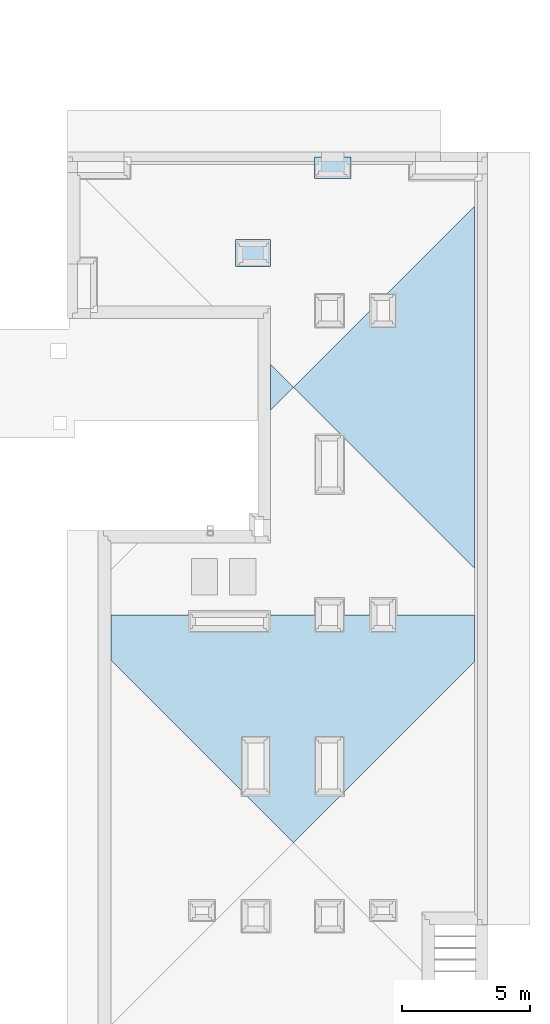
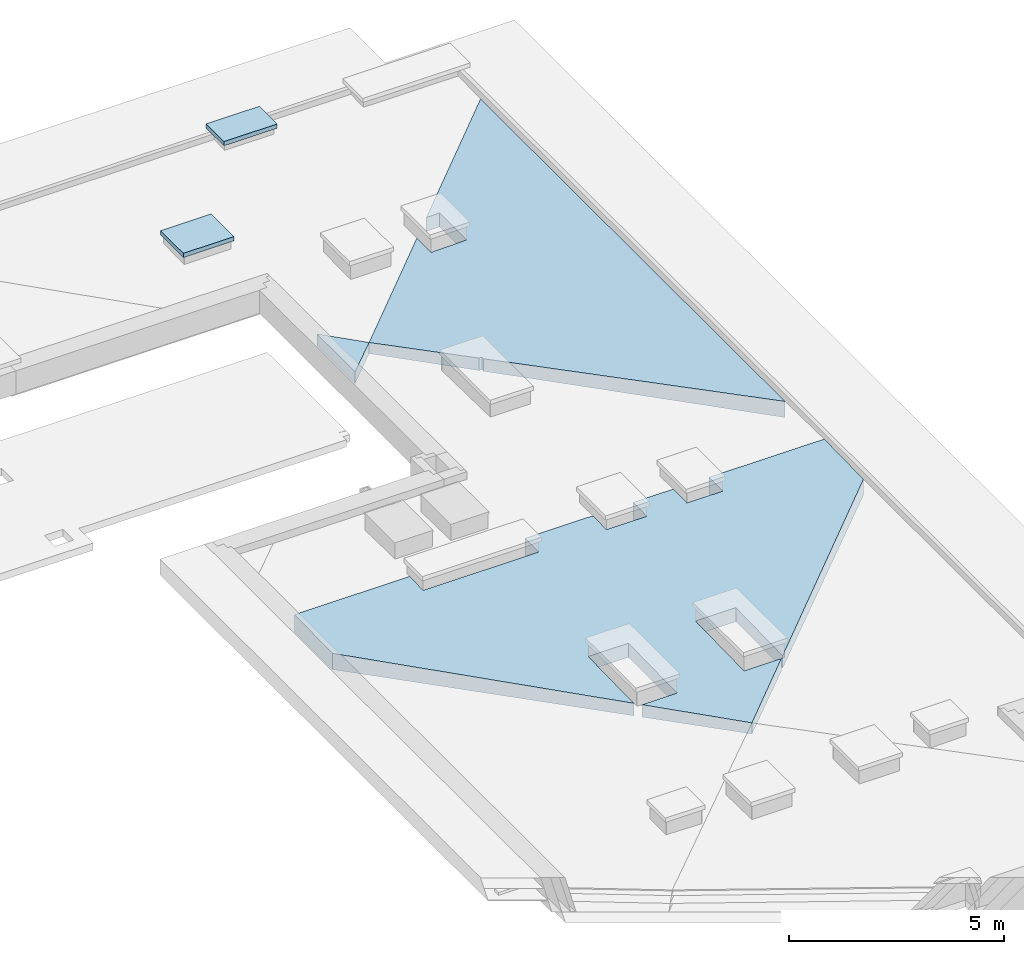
# One storey, part 4 of 16: 5 slabs.
"""IFC2X3 building model written with IfcOpenShell, lengths in millimetres."""

from ifc_helpers import new_model, entity, si_unit, converted_unit, derived_unit, money_unit, direction, frame, origin_with_axes, place, context, subcontext, project, spatial, faceted_brep, material, material_list, type_object, element, save


model = new_model("IFC2X3")

# Units and contexts
model_context = context("Model", 3, precision=0.01, world=origin_with_axes(), true_north=direction((0.34421633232, 0.938890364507)))
body_context = subcontext(model_context, "Body", "Model", "MODEL_VIEW")
ifc_project = project(units=[si_unit("LENGTHUNIT", "METRE", prefix="MILLI"), si_unit("AREAUNIT", "SQUARE_METRE"), si_unit("VOLUMEUNIT", "CUBIC_METRE"), converted_unit("PLANEANGLEUNIT", "DEGREE", entity("IfcPlaneAngleMeasure", 0.0174532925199), si_unit("PLANEANGLEUNIT", "RADIAN"), dimensions=[0, 0, 0, 0, 0, 0, 0]), si_unit("SOLIDANGLEUNIT", "STERADIAN"), money_unit("USD"), converted_unit("TIMEUNIT", "Year", entity("IfcTimeMeasure", 31556926.0), si_unit("TIMEUNIT", "SECOND"), dimensions=[0, 0, 1, 0, 0, 0, 0]), si_unit("MASSUNIT", "GRAM", prefix="KILO"), si_unit("THERMODYNAMICTEMPERATUREUNIT", "DEGREE_CELSIUS"), si_unit("LUMINOUSINTENSITYUNIT", "LUMEN"), si_unit("ENERGYUNIT", "JOULE", prefix="MEGA"), derived_unit("THERMALCONDUCTANCEUNIT", [(si_unit("POWERUNIT", "WATT"), 1), (si_unit("LENGTHUNIT", "METRE"), -1), (si_unit("THERMODYNAMICTEMPERATUREUNIT", "KELVIN"), -1)]), derived_unit("SPECIFICHEATCAPACITYUNIT", [(si_unit("ENERGYUNIT", "JOULE"), 1), (si_unit("MASSUNIT", "GRAM", prefix="KILO"), -1), (si_unit("THERMODYNAMICTEMPERATUREUNIT", "KELVIN"), -1)]), derived_unit("MASSDENSITYUNIT", [(si_unit("MASSUNIT", "GRAM", prefix="KILO"), 1), (si_unit("VOLUMEUNIT", "CUBIC_METRE"), -1)])], contexts=[model_context])

# Site, building, storey
site_placement = place(None, origin_with_axes())
site = spatial("IfcSite", under=ifc_project, at=site_placement, Name="USTRONIE MORSKIE", CompositionType="ELEMENT")
building_placement = place(site_placement, origin_with_axes())
building = spatial("IfcBuilding", under=site, at=building_placement, Name="Budynek", CompositionType="ELEMENT")
storey_placement = place(building_placement, frame((0.0, 0.0, 19000.0), z_axis=(0.0, 0.0, 1.0), x_axis=(1.0, 0.0, 0.0)))
storey = spatial("IfcBuildingStorey", under=building, at=storey_placement, Name="DACH", CompositionType="ELEMENT", Elevation=19000.0)

# Slabs
ifc_material_1 = material(Name="Okładzina kamienna")
ifc_material_2 = material(Name="Żwir")
ifc_material_3 = material(Name="Membrana hydroizolacyjna")
ifc_material_4 = material(Name="Termoizolacja PIR")
ifc_material_list = material_list([ifc_material_1, ifc_material_2, ifc_material_3, ifc_material_4, ifc_material_4])
slab_type_1 = type_object("IfcSlabType", Name="509-PS STROP DACH BALAST 560", PredefinedType="ROOF")
slab_1_placement = place(storey_placement, frame((418852.801309, 718001.199036, -400.0), z_axis=(0.0, 0.0, 1.0), x_axis=(-1.0, 0.0, 0.0)))
element("IfcSlab", 1, at=slab_1_placement, inside=storey, type_object=slab_type_1, material=ifc_material_list, Name="DA3", PredefinedType="ROOF", context=body_context, shape_type="Brep", body=[
    faceted_brep([(-2235.1196482, -8899.99984675, 738.111985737), (-2235.1196482, -8269.99998116, 725.511988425), (-1275.11965178, -8269.99998116, 725.511988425), (-1275.11965178, -8899.99984675, 738.111985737), (-195.119761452, -8899.99984675, 738.111985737), (-195.119761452, -8269.9934309, 725.51185742), (884.880287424, -8269.9934309, 725.51185742), (884.880287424, -8899.99984675, 738.111985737), (2704.88197096, -8899.99984675, 738.111985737), (2704.88197096, -8269.9934309, 725.51185742), (5804.88042749, -8269.9934309, 725.51185742), (5804.88042749, -8899.99984675, 738.111985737), (8894.88038965, -8899.99984675, 738.111985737), (8894.88038965, -7140.00022398, 702.911993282), (3764.88032945, -2009.99995165, 600.311987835), (3764.88032945, -4130.0000494, 642.71198979), (2684.87689979, -4130.0000494, 642.71198979), (2684.87689979, -1870.000005, 597.511988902), (3624.88038279, -1870.000005, 597.511988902), (1754.88041617, -3.83762426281e-05, 560.11198957), (-115.119550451, -1870.000005, 597.511988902), (884.880287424, -1870.000005, 597.511988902), (884.880287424, -4130.0000494, 642.71198979), (-195.119550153, -4130.0000494, 642.71198979), (-195.119550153, -1950.0000047, 599.111988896), (-5325.11961035, -7080.0000649, 701.7119901), (-5325.11961035, -8899.99984675, 738.111985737), (-2235.1196482, -8899.99984676, 718.107986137), (-2235.1196482, -8269.99998116, 705.507988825), (-1275.11965178, -8269.99998116, 705.507988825), (-1275.11965178, -8899.99984676, 718.107986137), (-195.119761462, -8899.99984676, 718.107986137), (-195.119761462, -8269.99343089, 705.50785782), (884.880287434, -8269.99343089, 705.50785782), (884.880287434, -8899.99984676, 718.107986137), (2704.88197096, -8899.99984676, 718.107986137), (2704.88197096, -8269.99343089, 705.50785782), (5804.88042749, -8269.99343089, 705.50785782), (5804.88042749, -8899.99984676, 718.107986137), (8894.88038966, -8899.99984676, 718.107986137), (8894.88038966, -7140.00022397, 682.907993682), (3764.88032945, -2009.99995167, 580.307988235), (3764.88032945, -4130.00004939, 622.70799019), (2684.87689978, -4130.00004939, 622.70799019), (2684.87689978, -1870.00000501, 577.507989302), (3624.8803828, -1870.00000501, 577.507989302), (1754.88041618, -3.83620317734e-05, 540.107989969), (-115.119550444, -1870.00000501, 577.507989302), (884.880287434, -1870.00000501, 577.507989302), (884.880287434, -4130.00004939, 622.70799019), (-195.119550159, -4130.00004939, 622.70799019), (-195.119550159, -1950.00000472, 579.107989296), (-5325.11961037, -7080.00006489, 681.7079905), (-5325.11961037, -8899.99984676, 718.107986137)], [[[0, 1, 2, 3, 4, 5, 6, 7, 8, 9, 10, 11, 12, 13, 14, 15, 16, 17, 18, 19, 20, 21, 22, 23, 24, 25, 26]], [[0, 27, 28, 1]], [[1, 28, 29, 2]], [[2, 29, 30, 3]], [[3, 30, 31, 4]], [[4, 31, 32, 5]], [[5, 32, 33, 6]], [[6, 33, 34, 7]], [[7, 34, 35, 8]], [[8, 35, 36, 9]], [[9, 36, 37, 10]], [[10, 37, 38, 11]], [[11, 38, 39, 12]], [[12, 39, 40, 13]], [[13, 40, 41, 14]], [[14, 41, 42, 15]], [[15, 42, 43, 16]], [[16, 43, 44, 17]], [[17, 44, 45, 18]], [[18, 45, 46, 19]], [[19, 46, 47, 20]], [[20, 47, 48, 21]], [[21, 48, 49, 22]], [[22, 49, 50, 23]], [[23, 50, 51, 24]], [[24, 51, 52, 25]], [[25, 52, 53, 26]], [[26, 53, 27, 0]], [[27, 53, 52, 51, 50, 49, 48, 47, 46, 45, 44, 43, 42, 41, 40, 39, 38, 37, 36, 35, 34, 33, 32, 31, 30, 29, 28]]]),
    faceted_brep([(-5325.11961037, -8899.99984676, 718.107986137), (-5325.11961042, -8899.99984682, 638.091987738), (-2235.11964819, -8899.99984682, 638.091987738), (-2235.1196482, -8899.99984676, 718.107986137), (-5325.11961037, -7080.00006489, 681.7079905), (-5325.11961042, -7080.00006486, 601.691992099), (-195.119550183, -1950.00000478, 499.091990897), (-195.119550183, -4130.00004933, 542.691991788), (884.880287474, -4130.00004933, 542.691991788), (884.880287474, -1870.00000504, 497.491990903), (-115.119550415, -1870.00000504, 497.491990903), (1754.8804162, -3.83053020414e-05, 460.091991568), (3624.88038282, -1870.00000504, 497.491990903), (2684.87689972, -1870.00000504, 497.491990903), (2684.87689972, -4130.00004933, 542.691991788), (3764.88032946, -4130.00004933, 542.691991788), (3764.88032946, -2009.99995172, 500.291989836), (8894.8803897, -7140.00022395, 602.891995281), (8894.8803897, -8899.99984682, 638.091987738), (5804.88042747, -8899.99984682, 638.091987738), (5804.88042747, -8269.99343087, 625.491859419), (2704.88197095, -8269.99343087, 625.491859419), (2704.88197095, -8899.99984682, 638.091987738), (884.880287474, -8899.99984682, 638.091987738), (884.880287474, -8269.99343087, 625.491859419), (-195.119761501, -8269.99343087, 625.491859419), (-195.119761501, -8899.99984682, 638.091987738), (-1275.1196518, -8899.99984682, 638.091987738), (-1275.1196518, -8269.99998118, 625.491990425), (-2235.11964819, -8269.99998118, 625.491990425), (-2235.1196482, -8269.99998116, 705.507988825), (-1275.11965178, -8269.99998116, 705.507988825), (-1275.11965178, -8899.99984676, 718.107986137), (-195.119761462, -8899.99984676, 718.107986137), (-195.119761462, -8269.99343089, 705.50785782), (884.880287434, -8269.99343089, 705.50785782), (884.880287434, -8899.99984676, 718.107986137), (2704.88197096, -8899.99984676, 718.107986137), (2704.88197096, -8269.99343089, 705.50785782), (5804.88042749, -8269.99343089, 705.50785782), (5804.88042749, -8899.99984676, 718.107986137), (8894.88038966, -8899.99984676, 718.107986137), (8894.88038966, -7140.00022397, 682.907993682), (3764.88032945, -2009.99995167, 580.307988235), (3764.88032945, -4130.00004939, 622.70799019), (2684.87689978, -4130.00004939, 622.70799019), (2684.87689978, -1870.00000501, 577.507989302), (3624.8803828, -1870.00000501, 577.507989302), (1754.88041618, -3.83620317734e-05, 540.107989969), (-115.119550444, -1870.00000501, 577.507989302), (884.880287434, -1870.00000501, 577.507989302), (884.880287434, -4130.00004939, 622.70799019), (-195.119550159, -4130.00004939, 622.70799019), (-195.119550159, -1950.00000472, 579.107989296)], [[[0, 1, 2, 3]], [[4, 5, 1, 0]], [[2, 1, 5, 6, 7, 8, 9, 10, 11, 12, 13, 14, 15, 16, 17, 18, 19, 20, 21, 22, 23, 24, 25, 26, 27, 28, 29]], [[3, 2, 29, 30]], [[3, 30, 31, 32, 33, 34, 35, 36, 37, 38, 39, 40, 41, 42, 43, 44, 45, 46, 47, 48, 49, 50, 51, 52, 53, 4, 0]], [[53, 6, 5, 4]], [[52, 7, 6, 53]], [[51, 8, 7, 52]], [[50, 9, 8, 51]], [[49, 10, 9, 50]], [[48, 11, 10, 49]], [[47, 12, 11, 48]], [[46, 13, 12, 47]], [[45, 14, 13, 46]], [[44, 15, 14, 45]], [[43, 16, 15, 44]], [[42, 17, 16, 43]], [[41, 18, 17, 42]], [[40, 19, 18, 41]], [[39, 20, 19, 40]], [[38, 21, 20, 39]], [[37, 22, 21, 38]], [[36, 23, 22, 37]], [[35, 24, 23, 36]], [[34, 25, 24, 35]], [[33, 26, 25, 34]], [[32, 27, 26, 33]], [[31, 28, 27, 32]], [[30, 29, 28, 31]]]),
    faceted_brep([(-5325.11961042, -8899.99984682, 638.091987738), (-5325.11961043, -8899.99984682, 628.089987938), (-2235.11964819, -8899.99984682, 628.089987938), (-2235.11964819, -8899.99984682, 638.091987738), (-5325.11961042, -7080.00006486, 601.691992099), (-5325.11961043, -7080.00006486, 591.689992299), (-195.119550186, -1950.00000479, 489.089991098), (-195.119550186, -4130.00004932, 532.689991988), (884.880287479, -4130.00004932, 532.689991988), (884.880287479, -1870.00000504, 487.489991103), (-115.119550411, -1870.00000504, 487.489991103), (1754.8804162, -3.82982534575e-05, 450.089991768), (3624.88038282, -1870.00000504, 487.489991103), (2684.87689971, -1870.00000504, 487.489991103), (2684.87689971, -4130.00004932, 532.689991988), (3764.88032946, -4130.00004932, 532.689991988), (3764.88032946, -2009.99995173, 490.289990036), (8894.8803897, -7140.00022395, 592.889995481), (8894.8803897, -8899.99984682, 628.089987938), (5804.88042746, -8899.99984682, 628.089987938), (5804.88042746, -8269.99343087, 615.489859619), (2704.88197095, -8269.99343087, 615.489859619), (2704.88197095, -8899.99984682, 628.089987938), (884.880287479, -8899.99984682, 628.089987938), (884.880287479, -8269.99343087, 615.489859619), (-195.119761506, -8269.99343087, 615.489859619), (-195.119761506, -8899.99984682, 628.089987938), (-1275.1196518, -8899.99984682, 628.089987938), (-1275.1196518, -8269.99998118, 615.489990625), (-2235.11964819, -8269.99998118, 615.489990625), (-2235.11964819, -8269.99998118, 625.491990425), (-1275.1196518, -8269.99998118, 625.491990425), (-1275.1196518, -8899.99984682, 638.091987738), (-195.119761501, -8899.99984682, 638.091987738), (-195.119761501, -8269.99343087, 625.491859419), (884.880287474, -8269.99343087, 625.491859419), (884.880287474, -8899.99984682, 638.091987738), (2704.88197095, -8899.99984682, 638.091987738), (2704.88197095, -8269.99343087, 625.491859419), (5804.88042747, -8269.99343087, 625.491859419), (5804.88042747, -8899.99984682, 638.091987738), (8894.8803897, -8899.99984682, 638.091987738), (8894.8803897, -7140.00022395, 602.891995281), (3764.88032946, -2009.99995172, 500.291989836), (3764.88032946, -4130.00004933, 542.691991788), (2684.87689972, -4130.00004933, 542.691991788), (2684.87689972, -1870.00000504, 497.491990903), (3624.88038282, -1870.00000504, 497.491990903), (1754.8804162, -3.83053020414e-05, 460.091991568), (-115.119550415, -1870.00000504, 497.491990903), (884.880287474, -1870.00000504, 497.491990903), (884.880287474, -4130.00004933, 542.691991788), (-195.119550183, -4130.00004933, 542.691991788), (-195.119550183, -1950.00000478, 499.091990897)], [[[0, 1, 2, 3]], [[4, 5, 1, 0]], [[2, 1, 5, 6, 7, 8, 9, 10, 11, 12, 13, 14, 15, 16, 17, 18, 19, 20, 21, 22, 23, 24, 25, 26, 27, 28, 29]], [[3, 2, 29, 30]], [[3, 30, 31, 32, 33, 34, 35, 36, 37, 38, 39, 40, 41, 42, 43, 44, 45, 46, 47, 48, 49, 50, 51, 52, 53, 4, 0]], [[53, 6, 5, 4]], [[52, 7, 6, 53]], [[51, 8, 7, 52]], [[50, 9, 8, 51]], [[49, 10, 9, 50]], [[48, 11, 10, 49]], [[47, 12, 11, 48]], [[46, 13, 12, 47]], [[45, 14, 13, 46]], [[44, 15, 14, 45]], [[43, 16, 15, 44]], [[42, 17, 16, 43]], [[41, 18, 17, 42]], [[40, 19, 18, 41]], [[39, 20, 19, 40]], [[38, 21, 20, 39]], [[37, 22, 21, 38]], [[36, 23, 22, 37]], [[35, 24, 23, 36]], [[34, 25, 24, 35]], [[33, 26, 25, 34]], [[32, 27, 26, 33]], [[31, 28, 27, 32]], [[30, 29, 28, 31]]]),
    faceted_brep([(-5325.11961043, -8899.99984682, 628.089987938), (-5325.11961053, -8899.99984693, 478.05999094), (-2235.11964818, -8899.99984693, 478.05999094), (-2235.11964819, -8899.99984682, 628.089987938), (-5325.11961043, -7080.00006486, 591.689992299), (-5325.11961053, -7080.0000648, 441.659995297), (-195.11955023, -1950.00000492, 339.0599941), (-195.11955023, -4130.0000492, 382.659994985), (884.880287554, -4130.0000492, 382.659994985), (884.880287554, -1870.00000511, 337.459994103), (-115.119550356, -1870.00000511, 337.459994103), (1754.88041625, -3.81919562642e-05, 300.059994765), (3624.88038285, -1870.00000511, 337.459994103), (2684.87689959, -1870.00000511, 337.459994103), (2684.87689959, -4130.0000492, 382.659994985), (3764.88032947, -4130.0000492, 382.659994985), (3764.88032947, -2009.99995183, 340.259993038), (8894.88038978, -7140.00022392, 442.85999848), (8894.88038978, -8899.99984693, 478.05999094), (5804.88042742, -8899.99984693, 478.05999094), (5804.88042742, -8269.99343082, 465.459862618), (2704.88197093, -8269.99343082, 465.459862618), (2704.88197093, -8899.99984693, 478.05999094), (884.880287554, -8899.99984693, 478.05999094), (884.880287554, -8269.99343082, 465.459862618), (-195.119761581, -8269.99343082, 465.459862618), (-195.119761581, -8899.99984693, 478.05999094), (-1275.11965184, -8899.99984693, 478.05999094), (-1275.11965184, -8269.99998121, 465.459993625), (-2235.11964818, -8269.99998121, 465.459993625), (-2235.11964819, -8269.99998118, 615.489990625), (-1275.1196518, -8269.99998118, 615.489990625), (-1275.1196518, -8899.99984682, 628.089987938), (-195.119761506, -8899.99984682, 628.089987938), (-195.119761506, -8269.99343087, 615.489859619), (884.880287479, -8269.99343087, 615.489859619), (884.880287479, -8899.99984682, 628.089987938), (2704.88197095, -8899.99984682, 628.089987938), (2704.88197095, -8269.99343087, 615.489859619), (5804.88042746, -8269.99343087, 615.489859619), (5804.88042746, -8899.99984682, 628.089987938), (8894.8803897, -8899.99984682, 628.089987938), (8894.8803897, -7140.00022395, 592.889995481), (3764.88032946, -2009.99995173, 490.289990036), (3764.88032946, -4130.00004932, 532.689991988), (2684.87689971, -4130.00004932, 532.689991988), (2684.87689971, -1870.00000504, 487.489991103), (3624.88038282, -1870.00000504, 487.489991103), (1754.8804162, -3.82982534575e-05, 450.089991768), (-115.119550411, -1870.00000504, 487.489991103), (884.880287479, -1870.00000504, 487.489991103), (884.880287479, -4130.00004932, 532.689991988), (-195.119550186, -4130.00004932, 532.689991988), (-195.119550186, -1950.00000479, 489.089991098)], [[[0, 1, 2, 3]], [[4, 5, 1, 0]], [[2, 1, 5, 6, 7, 8, 9, 10, 11, 12, 13, 14, 15, 16, 17, 18, 19, 20, 21, 22, 23, 24, 25, 26, 27, 28, 29]], [[3, 2, 29, 30]], [[3, 30, 31, 32, 33, 34, 35, 36, 37, 38, 39, 40, 41, 42, 43, 44, 45, 46, 47, 48, 49, 50, 51, 52, 53, 4, 0]], [[53, 6, 5, 4]], [[52, 7, 6, 53]], [[51, 8, 7, 52]], [[50, 9, 8, 51]], [[49, 10, 9, 50]], [[48, 11, 10, 49]], [[47, 12, 11, 48]], [[46, 13, 12, 47]], [[45, 14, 13, 46]], [[44, 15, 14, 45]], [[43, 16, 15, 44]], [[42, 17, 16, 43]], [[41, 18, 17, 42]], [[40, 19, 18, 41]], [[39, 20, 19, 40]], [[38, 21, 20, 39]], [[37, 22, 21, 38]], [[36, 23, 22, 37]], [[35, 24, 23, 36]], [[34, 25, 24, 35]], [[33, 26, 25, 34]], [[32, 27, 26, 33]], [[31, 28, 27, 32]], [[30, 29, 28, 31]]]),
    faceted_brep([(-5325.11961067, -7080.00006472, 245.0), (-5325.1196107, -8899.99984709, 245.0), (-5325.11961053, -8899.99984693, 478.05999094), (-5325.11961053, -7080.0000648, 441.659995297), (-2235.11964815, -8899.99984709, 245.0), (-195.119550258, -1950.00000499, 245.0), (-195.119550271, -4130.0000491, 245.0), (884.880287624, -4130.0000491, 245.0), (884.880287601, -1870.00000514, 245.0), (-115.119550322, -1870.00000514, 245.0), (1754.88041627, -3.81529616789e-05, 245.0), (3624.88038288, -1870.00000514, 245.0), (2684.87689952, -1870.00000514, 245.0), (2684.87689949, -4130.0000491, 245.0), (3764.88032949, -4130.0000491, 245.0), (3764.88032948, -2009.9999519, 245.0), (8894.88038988, -7140.00022387, 245.0), (8894.88038989, -8899.99984709, 245.0), (5804.88042735, -8899.99984709, 245.0), (5804.88042735, -8269.99343076, 245.0), (2704.88197091, -8269.99343076, 245.0), (2704.88197091, -8899.99984709, 245.0), (884.880287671, -8899.99984709, 245.0), (884.880287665, -8269.99343076, 245.0), (-195.11976169, -8269.99343076, 245.0), (-195.119761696, -8899.99984709, 245.0), (-1275.11965189, -8899.99984709, 245.0), (-1275.11965189, -8269.99998126, 245.0), (-2235.11964815, -8269.99998126, 245.0), (-2235.11964818, -8899.99984693, 478.05999094), (-2235.11964818, -8269.99998121, 465.459993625), (-1275.11965184, -8269.99998121, 465.459993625), (-1275.11965184, -8899.99984693, 478.05999094), (-195.119761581, -8899.99984693, 478.05999094), (-195.119761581, -8269.99343082, 465.459862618), (884.880287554, -8269.99343082, 465.459862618), (884.880287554, -8899.99984693, 478.05999094), (2704.88197093, -8899.99984693, 478.05999094), (2704.88197093, -8269.99343082, 465.459862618), (5804.88042742, -8269.99343082, 465.459862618), (5804.88042742, -8899.99984693, 478.05999094), (8894.88038978, -8899.99984693, 478.05999094), (8894.88038978, -7140.00022392, 442.85999848), (3764.88032947, -2009.99995183, 340.259993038), (3764.88032947, -4130.0000492, 382.659994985), (2684.87689959, -4130.0000492, 382.659994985), (2684.87689959, -1870.00000511, 337.459994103), (3624.88038285, -1870.00000511, 337.459994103), (1754.88041625, -3.81919562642e-05, 300.059994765), (-115.119550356, -1870.00000511, 337.459994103), (884.880287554, -1870.00000511, 337.459994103), (884.880287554, -4130.0000492, 382.659994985), (-195.11955023, -4130.0000492, 382.659994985), (-195.11955023, -1950.00000492, 339.0599941)], [[[0, 1, 2, 3]], [[4, 1, 0, 5, 6, 7, 8, 9, 10, 11, 12, 13, 14, 15, 16, 17, 18, 19, 20, 21, 22, 23, 24, 25, 26, 27, 28]], [[1, 4, 29, 2]], [[2, 29, 30, 31, 32, 33, 34, 35, 36, 37, 38, 39, 40, 41, 42, 43, 44, 45, 46, 47, 48, 49, 50, 51, 52, 53, 3]], [[5, 0, 3, 53]], [[6, 5, 53, 52]], [[7, 6, 52, 51]], [[8, 7, 51, 50]], [[9, 8, 50, 49]], [[10, 9, 49, 48]], [[11, 10, 48, 47]], [[12, 11, 47, 46]], [[13, 12, 46, 45]], [[14, 13, 45, 44]], [[15, 14, 44, 43]], [[16, 15, 43, 42]], [[17, 16, 42, 41]], [[18, 17, 41, 40]], [[19, 18, 40, 39]], [[20, 19, 39, 38]], [[21, 20, 38, 37]], [[22, 21, 37, 36]], [[23, 22, 36, 35]], [[24, 23, 35, 34]], [[25, 24, 34, 33]], [[26, 25, 33, 32]], [[27, 26, 32, 31]], [[28, 27, 31, 30]], [[4, 28, 30, 29]]]),
])
slab_2_placement = place(storey_placement, frame((417097.92104, 734046.318621, -400.0), z_axis=(0.0, 0.0, 1.0), x_axis=(-5.50521486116e-09, 1.0, 0.0)))
element("IfcSlab", 2, at=slab_2_placement, inside=storey, type_object=slab_type_1, material=ifc_material_list, Name="DA3", PredefinedType="ROOF", context=body_context, shape_type="Brep", body=[
    faceted_brep([(8834.88049547, -7079.99999749, 701.711988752), (5384.87635108, -3629.99581511, 632.711905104), (5384.87634909, -3989.99829049, 639.911954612), (4124.86126791, -3989.99828356, 639.911954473), (4124.8612732, -3029.99995845, 620.711987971), (4784.88050466, -3029.99996208, 620.711988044), (1754.88053445, 4.14871124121e-05, 560.111987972), (-115.119575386, -1870.00004776, 597.511989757), (-115.119575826, -1949.99987312, 599.111986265), (-195.119401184, -1949.99987268, 599.111986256), (-5325.11950453, -7079.99991954, 701.711987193), (8834.88049546, -7079.9999975, 681.707989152), (5384.87635106, -3629.9958151, 612.707905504), (5384.87634909, -3989.99829049, 619.907955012), (4124.86126792, -3989.99828357, 619.907954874), (4124.86127318, -3029.99995846, 600.707988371), (4784.88050466, -3029.99996207, 600.707988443), (1754.88053444, 4.15000727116e-05, 540.107988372), (-115.119575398, -1870.00004774, 577.507990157), (-115.119575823, -1949.99987312, 579.107986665), (-195.119401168, -1949.99987266, 579.107986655), (-5325.11950454, -7079.99991954, 681.707987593)], [[[0, 1, 2, 3, 4, 5, 6, 7, 8, 9, 10]], [[0, 11, 12, 1]], [[1, 12, 13, 2]], [[2, 13, 14, 3]], [[3, 14, 15, 4]], [[4, 15, 16, 5]], [[5, 16, 17, 6]], [[6, 17, 18, 7]], [[7, 18, 19, 8]], [[8, 19, 20, 9]], [[9, 20, 21, 10]], [[10, 21, 11, 0]], [[11, 21, 20, 19, 18, 17, 16, 15, 14, 13, 12]]]),
    faceted_brep([(-5325.11950454, -7079.99991954, 681.707987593), (-5325.1195046, -7079.99991956, 601.691989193), (8834.88049543, -7079.99999756, 601.691990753), (8834.88049546, -7079.9999975, 681.707989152), (-195.119401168, -1949.99987266, 579.107986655), (-195.119401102, -1949.9998726, 499.091988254), (-115.11957581, -1949.99987313, 499.091988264), (-115.119575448, -1870.00004769, 497.491991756), (1754.88053442, 4.15519707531e-05, 460.091989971), (4784.88050467, -3029.99996201, 520.691990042), (4124.86127313, -3029.99995853, 520.691989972), (4124.86126796, -3989.99828362, 539.891956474), (5384.87634905, -3989.99829048, 539.891956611), (5384.87635101, -3629.99581507, 532.691907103), (5384.87635106, -3629.9958151, 612.707905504), (5384.87634909, -3989.99829049, 619.907955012), (4124.86126792, -3989.99828357, 619.907954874), (4124.86127318, -3029.99995846, 600.707988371), (4784.88050466, -3029.99996207, 600.707988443), (1754.88053444, 4.15000727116e-05, 540.107988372), (-115.119575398, -1870.00004774, 577.507990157), (-115.119575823, -1949.99987312, 579.107986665)], [[[0, 1, 2, 3]], [[4, 5, 1, 0]], [[2, 1, 5, 6, 7, 8, 9, 10, 11, 12, 13]], [[3, 2, 13, 14]], [[3, 14, 15, 16, 17, 18, 19, 20, 21, 4, 0]], [[21, 6, 5, 4]], [[20, 7, 6, 21]], [[19, 8, 7, 20]], [[18, 9, 8, 19]], [[17, 10, 9, 18]], [[16, 11, 10, 17]], [[15, 12, 11, 16]], [[14, 13, 12, 15]]]),
    faceted_brep([(-5325.1195046, -7079.99991956, 601.691989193), (-5325.1195046, -7079.99991956, 591.689989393), (8834.88049543, -7079.99999757, 591.689990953), (8834.88049543, -7079.99999756, 601.691990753), (-195.119401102, -1949.9998726, 499.091988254), (-195.119401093, -1949.99987259, 489.089988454), (-115.119575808, -1949.99987313, 489.089988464), (-115.119575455, -1870.00004768, 487.489991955), (1754.88053441, 4.15584509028e-05, 450.089990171), (4784.88050467, -3029.999962, 510.689990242), (4124.86127312, -3029.99995853, 510.689990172), (4124.86126796, -3989.99828362, 529.889956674), (5384.87634905, -3989.99829048, 529.889956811), (5384.87635101, -3629.99581506, 522.689907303), (5384.87635101, -3629.99581507, 532.691907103), (5384.87634905, -3989.99829048, 539.891956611), (4124.86126796, -3989.99828362, 539.891956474), (4124.86127313, -3029.99995853, 520.691989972), (4784.88050467, -3029.99996201, 520.691990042), (1754.88053442, 4.15519707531e-05, 460.091989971), (-115.119575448, -1870.00004769, 497.491991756), (-115.11957581, -1949.99987313, 499.091988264)], [[[0, 1, 2, 3]], [[4, 5, 1, 0]], [[2, 1, 5, 6, 7, 8, 9, 10, 11, 12, 13]], [[3, 2, 13, 14]], [[3, 14, 15, 16, 17, 18, 19, 20, 21, 4, 0]], [[21, 6, 5, 4]], [[20, 7, 6, 21]], [[19, 8, 7, 20]], [[18, 9, 8, 19]], [[17, 10, 9, 18]], [[16, 11, 10, 17]], [[15, 12, 11, 16]], [[14, 13, 12, 15]]]),
    faceted_brep([(-5325.1195046, -7079.99991956, 591.689989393), (-5325.11950471, -7079.9999196, 441.659992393), (8834.88049536, -7079.99999767, 441.659993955), (8834.88049543, -7079.99999757, 591.689990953), (-195.119401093, -1949.99987259, 489.089988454), (-195.119400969, -1949.99987248, 339.059991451), (-115.119575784, -1949.99987315, 339.059991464), (-115.119575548, -1870.00004758, 337.459994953), (1754.88053437, 4.16557668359e-05, 300.059993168), (4784.88050469, -3029.99996189, 360.659993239), (4124.86127302, -3029.99995865, 360.659993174), (4124.86126803, -3989.99828372, 379.859959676), (5384.87634898, -3989.99829046, 379.85995981), (5384.87635091, -3629.99581501, 372.659910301), (5384.87635101, -3629.99581506, 522.689907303), (5384.87634905, -3989.99829048, 529.889956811), (4124.86126796, -3989.99828362, 529.889956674), (4124.86127312, -3029.99995853, 510.689990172), (4784.88050467, -3029.999962, 510.689990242), (1754.88053441, 4.15584509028e-05, 450.089990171), (-115.119575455, -1870.00004768, 487.489991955), (-115.119575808, -1949.99987313, 489.089988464)], [[[0, 1, 2, 3]], [[4, 5, 1, 0]], [[2, 1, 5, 6, 7, 8, 9, 10, 11, 12, 13]], [[3, 2, 13, 14]], [[3, 14, 15, 16, 17, 18, 19, 20, 21, 4, 0]], [[21, 6, 5, 4]], [[20, 7, 6, 21]], [[19, 8, 7, 20]], [[18, 9, 8, 19]], [[17, 10, 9, 18]], [[16, 11, 10, 17]], [[15, 12, 11, 16]], [[14, 13, 12, 15]]]),
    faceted_brep([(-5325.11950485, -7079.99991964, 245.0), (8834.88049528, -7079.99999781, 245.0), (8834.88049536, -7079.99999767, 441.659993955), (-5325.11950471, -7079.9999196, 441.659992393), (5384.87635083, -3629.99581495, 245.0), (-195.119400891, -1949.99987241, 245.0), (-115.119575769, -1949.99987316, 245.0), (-115.119575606, -1870.00004752, 245.0), (1754.88053435, 4.16914645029e-05, 245.0), (4784.88050471, -3029.99996181, 245.0), (4124.86127295, -3029.99995874, 245.0), (4124.86126809, -3989.9982838, 245.0), (5384.87634893, -3989.99829044, 245.0), (5384.87635091, -3629.99581501, 372.659910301), (5384.87634898, -3989.99829046, 379.85995981), (4124.86126803, -3989.99828372, 379.859959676), (4124.86127302, -3029.99995865, 360.659993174), (4784.88050469, -3029.99996189, 360.659993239), (1754.88053437, 4.16557668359e-05, 300.059993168), (-115.119575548, -1870.00004758, 337.459994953), (-115.119575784, -1949.99987315, 339.059991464), (-195.119400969, -1949.99987248, 339.059991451)], [[[0, 1, 2, 3]], [[4, 1, 0, 5, 6, 7, 8, 9, 10, 11, 12]], [[1, 4, 13, 2]], [[3, 2, 13, 14, 15, 16, 17, 18, 19, 20, 21]], [[5, 0, 3, 21]], [[6, 5, 21, 20]], [[7, 6, 20, 19]], [[8, 7, 19, 18]], [[9, 8, 18, 17]], [[10, 9, 17, 16]], [[11, 10, 16, 15]], [[12, 11, 15, 14]], [[4, 12, 14, 13]]]),
])
slab_3_placement = place(storey_placement, frame((417097.921015, 732891.199009, -400.0), z_axis=(0.0, 0.0, 1.0), x_axis=(-5.50528511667e-09, -1.0, 0.0)))
element("IfcSlab", 3, at=slab_3_placement, inside=storey, type_object=slab_type_1, material=ifc_material_list, Name="DA3", PredefinedType="ROOF", context=body_context, shape_type="Brep", body=[
    faceted_brep([(-2020.00009491, -889.9999951, 577.911988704), (-2910.00009981, -1.25055521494e-09, 560.111988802), (-3800.00009491, -890.0000049, 577.9119889), (-2020.00009491, -889.999995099, 557.907989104), (-2910.00009979, -3.97903932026e-10, 540.107989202), (-3800.00009492, -890.000004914, 557.9079893)], [[[0, 1, 2]], [[0, 3, 4, 1]], [[1, 4, 5, 2]], [[2, 5, 3, 0]], [[3, 5, 4]]]),
    faceted_brep([(-3800.00009492, -890.000004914, 557.9079893), (-3800.00009497, -890.000004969, 477.891990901), (-2020.00009493, -889.999995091, 477.891990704), (-2020.00009491, -889.999995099, 557.907989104), (-2910.00009979, -3.97903932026e-10, 540.107989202), (-2910.00009973, 2.95585778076e-09, 460.091990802)], [[[0, 1, 2, 3]], [[4, 5, 1, 0]], [[2, 1, 5]], [[3, 2, 5, 4]], [[3, 4, 0]]]),
    faceted_brep([(-3800.00009497, -890.000004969, 477.891990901), (-3800.00009498, -890.000004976, 467.889991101), (-2020.00009493, -889.99999509, 467.889990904), (-2020.00009493, -889.999995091, 477.891990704), (-2910.00009973, 2.95585778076e-09, 460.091990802), (-2910.00009972, 3.35376171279e-09, 450.089991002)], [[[0, 1, 2, 3]], [[4, 5, 1, 0]], [[2, 1, 5]], [[3, 2, 5, 4]], [[3, 4, 0]]]),
    faceted_brep([(-3800.00009498, -890.000004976, 467.889991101), (-3800.00009509, -890.000005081, 317.859994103), (-2020.00009496, -889.999995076, 317.859993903), (-2020.00009493, -889.99999509, 467.889990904), (-2910.00009972, 3.41060513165e-09, 450.089991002), (-2910.0000996, 9.7202246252e-09, 300.059994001)], [[[0, 1, 2, 3]], [[4, 5, 1, 0]], [[2, 1, 5]], [[3, 2, 5, 4]], [[3, 4, 0]]]),
    faceted_brep([(-2020.00009498, -889.999995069, 245.0), (-2910.00009955, 1.20508047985e-08, 245.0), (-2910.0000996, 9.7202246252e-09, 300.059994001), (-2020.00009496, -889.999995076, 317.859993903), (-3800.00009514, -890.000005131, 245.0), (-3800.00009509, -890.000005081, 317.859994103)], [[[0, 1, 2, 3]], [[4, 1, 0]], [[1, 4, 5, 2]], [[5, 3, 2]], [[4, 0, 3, 5]]]),
])
ifc_material_5 = material(Name="Beton konstrukcyjny B25")
slab_type_2 = type_object("IfcSlabType", Name="Beton konstrukcyjny B25 120", PredefinedType="FLOOR")
slab_4_placement = place(storey_placement, frame((417917.920833, 743971.199037, 620.0), z_axis=(0.0, 0.0, 1.0), x_axis=(1.0, 0.0, 0.0)))
element("IfcSlab", 4, at=slab_4_placement, inside=storey, type_object=slab_type_2, material=ifc_material_5, Name="P3", PredefinedType="FLOOR", context=body_context, shape_type="Brep", body=[
    faceted_brep([(0.0, 0.0, 0.0), (0.0, 0.0, -120.0), (1430.00099923, 0.0, -120.0), (1430.00099923, 0.0, 0.0), (0.0, 829.999999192, 0.0), (0.0, 829.999999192, -120.0), (1430.00099923, 829.999999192, -120.0), (1430.00099923, 829.999999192, 0.0)], [[[0, 1, 2, 3]], [[4, 5, 1, 0]], [[2, 1, 5, 6]], [[3, 2, 6, 7]], [[4, 0, 3, 7]], [[7, 6, 5, 4]]]),
])
slab_5_placement = place(storey_placement, frame((414837.920919, 740521.171911, 620.0), z_axis=(0.0, 0.0, 1.0), x_axis=(1.0, 0.0, 0.0)))
element("IfcSlab", 5, at=slab_5_placement, inside=storey, type_object=slab_type_2, material=ifc_material_5, Name="P3", PredefinedType="FLOOR", context=body_context, shape_type="Brep", body=[
    faceted_brep([(0.0, 0.0, 0.0), (0.0, 0.0, -120.0), (1360.0, 0.0, -120.0), (1360.0, 0.0, 0.0), (0.0, 1060.00883698, 0.0), (0.0, 1060.00883698, -120.0), (1360.0, 1060.00883698, -120.0), (1360.0, 1060.00883698, 0.0)], [[[0, 1, 2, 3]], [[4, 5, 1, 0]], [[2, 1, 5, 6]], [[3, 2, 6, 7]], [[4, 0, 3, 7]], [[7, 6, 5, 4]]]),
])

save(model, "model.ifc")
